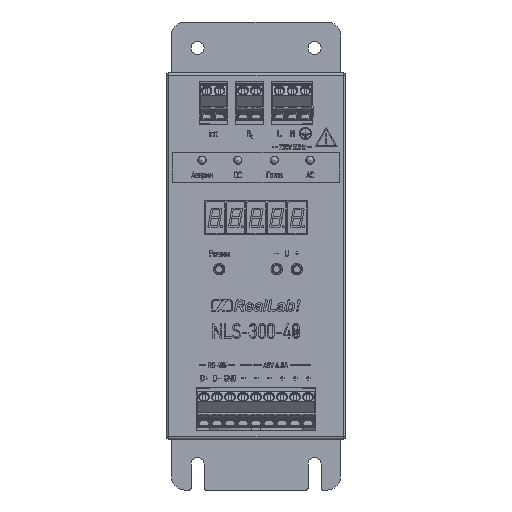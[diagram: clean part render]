
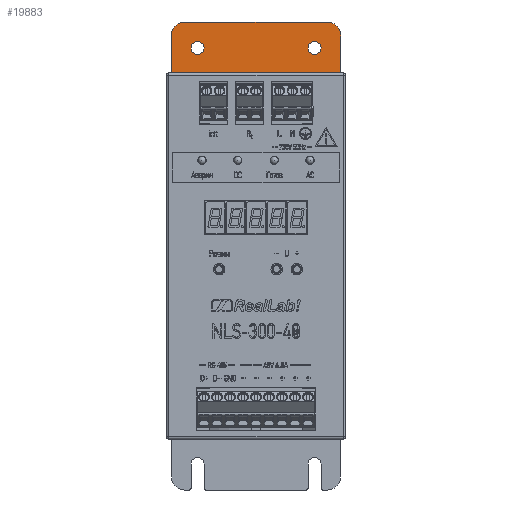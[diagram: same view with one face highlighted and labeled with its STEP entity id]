
A CAD part, left-side view. The second image highlights one B-rep face of the part: STEP entity #19883.
In plain terms, the highlighted planar face has unit normal (-1, 0, 0).
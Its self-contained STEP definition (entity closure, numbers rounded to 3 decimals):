
#19883=ADVANCED_FACE('',(#72314,#72316,#72318),#72320,.F.);
#72314=FACE_BOUND('',#72315,.T.);
#72315=EDGE_LOOP('',(#115441,#115442,#115443,#115444,#115445,#115446));
#72316=FACE_BOUND('',#72317,.T.);
#72317=EDGE_LOOP('',(#115447));
#72318=FACE_BOUND('',#72319,.T.);
#72319=EDGE_LOOP('',(#115448));
#72320=PLANE('',#72321);
#72321=AXIS2_PLACEMENT_3D('',#72322,#72323,#72324);
#72322=CARTESIAN_POINT('',(0.,31.5,68.5));
#72323=DIRECTION('',(1.,0.,0.));
#72324=DIRECTION('',(0.,1.,0.));
#115441=ORIENTED_EDGE('',*,*,#145619,.F.);
#115442=ORIENTED_EDGE('',*,*,#145147,.F.);
#115443=ORIENTED_EDGE('',*,*,#147454,.F.);
#115444=ORIENTED_EDGE('',*,*,#147455,.F.);
#115445=ORIENTED_EDGE('',*,*,#147456,.F.);
#115446=ORIENTED_EDGE('',*,*,#145139,.F.);
#115447=ORIENTED_EDGE('',*,*,#147457,.T.);
#115448=ORIENTED_EDGE('',*,*,#147458,.T.);
#145139=EDGE_CURVE('',#165867,#165869,#165870,.T.);
#145147=EDGE_CURVE('',#165882,#165883,#165884,.T.);
#145619=EDGE_CURVE('',#165883,#165867,#166601,.F.);
#147454=EDGE_CURVE('',#169951,#165882,#169952,.T.);
#147455=EDGE_CURVE('',#169953,#169951,#169954,.T.);
#147456=EDGE_CURVE('',#165869,#169953,#169955,.T.);
#147457=EDGE_CURVE('',#169956,#169956,#169957,.T.);
#147458=EDGE_CURVE('',#169958,#169958,#169959,.T.);
#165867=VERTEX_POINT('',#210069);
#165869=VERTEX_POINT('',#210074);
#165870=LINE('',#210075,#210076);
#165882=VERTEX_POINT('',#210104);
#165883=VERTEX_POINT('',#210105);
#165884=LINE('',#210106,#210107);
#166601=LINE('',#211802,#211803);
#169951=VERTEX_POINT('',#221748);
#169952=CIRCLE('',#221749,5.);
#169953=VERTEX_POINT('',#221753);
#169954=LINE('',#221754,#221755);
#169955=CIRCLE('',#221757,5.);
#169956=VERTEX_POINT('',#221761);
#169957=CIRCLE('',#221762,2.5);
#169958=VERTEX_POINT('',#221766);
#169959=CIRCLE('',#221767,2.5);
#210069=CARTESIAN_POINT('',(0.,64.,135.));
#210074=CARTESIAN_POINT('',(0.,64.,153.5));
#210075=CARTESIAN_POINT('',(0.,64.,135.));
#210076=VECTOR('',#210077,1.);
#210077=DIRECTION('',(0.,0.,1.));
#210104=CARTESIAN_POINT('',(0.,-1.,153.5));
#210105=CARTESIAN_POINT('',(0.,-1.,135.));
#210106=CARTESIAN_POINT('',(0.,-1.,153.5));
#210107=VECTOR('',#210108,1.);
#210108=DIRECTION('',(0.,0.,-1.));
#211802=CARTESIAN_POINT('',(0.,64.,135.));
#211803=VECTOR('',#211804,1.);
#211804=DIRECTION('',(0.,-1.,0.));
#221748=CARTESIAN_POINT('',(0.,4.,158.5));
#221749=AXIS2_PLACEMENT_3D('',#221750,#221751,#221752);
#221750=CARTESIAN_POINT('',(0.,4.,153.5));
#221751=DIRECTION('',(1.,0.,0.));
#221752=DIRECTION('',(0.,0.,1.));
#221753=CARTESIAN_POINT('',(0.,59.,158.5));
#221754=CARTESIAN_POINT('',(0.,59.,158.5));
#221755=VECTOR('',#221756,1.);
#221756=DIRECTION('',(0.,-1.,0.));
#221757=AXIS2_PLACEMENT_3D('',#221758,#221759,#221760);
#221758=CARTESIAN_POINT('',(0.,59.,153.5));
#221759=DIRECTION('',(1.,0.,0.));
#221760=DIRECTION('',(0.,1.,0.));
#221761=CARTESIAN_POINT('',(0.,11.5,148.5));
#221762=AXIS2_PLACEMENT_3D('',#221763,#221764,#221765);
#221763=CARTESIAN_POINT('',(0.,9.,148.5));
#221764=DIRECTION('',(1.,0.,0.));
#221765=DIRECTION('',(0.,1.,0.));
#221766=CARTESIAN_POINT('',(0.,56.5,148.5));
#221767=AXIS2_PLACEMENT_3D('',#221768,#221769,#221770);
#221768=CARTESIAN_POINT('',(0.,54.,148.5));
#221769=DIRECTION('',(1.,0.,0.));
#221770=DIRECTION('',(0.,1.,0.));
